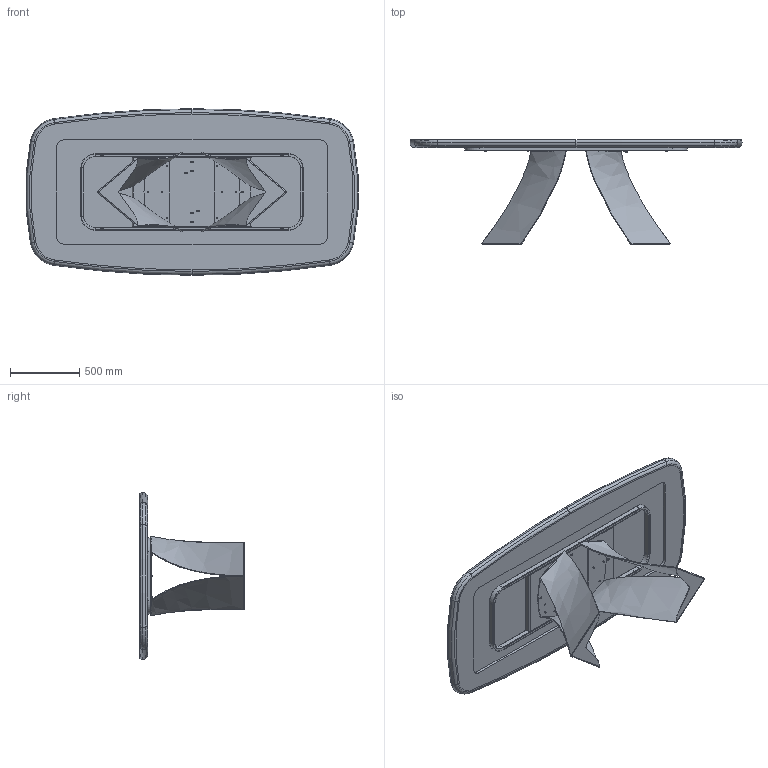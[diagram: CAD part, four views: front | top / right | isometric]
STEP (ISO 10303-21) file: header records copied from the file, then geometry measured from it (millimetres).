
FILE_DESCRIPTION (( 'STEP AP203' ), '1' );
FILE_NAME ('TW42K_Twist_240X120_King Shaped.STEP', '2024-08-02T09:51:09', ( '' ), ( '' ), 'SwSTEP 2.0', 'SolidWorks 2022', '' );
FILE_SCHEMA (( 'CONFIG_CONTROL_DESIGN' ));
Length unit declared in the file: millimetre
Products named in the file (12): rondella M8_8X16; K50-00-PIANO SOLO CERAMICA 236,7x116,7cm sag; TEALIO TEMP PER MANUALE; TTAV01_02-01-VASSOIO IRRIGIDIMENTO TELAIO UNIVERSALE; ASSIEME PIANO+CERAMICA 240X120; M8xXXmm_M8x55mm; W50-01-PIANO KING BORDO 240x120 SAGOMATO LACCATO; TW42K_Twist_240X120_King Shaped; M8xXXmm_M8x10mm; M8xXXmm_M8x20mm; TWS000000BAS-00-TWIST BASE GREZZA; TUBOLARE TELAIO TEMP TWIST_Default<A macchina>
Assembly tree (41 placements, depth 3):
  TW42K_Twist_240X120_King Shaped
    TEALIO TEMP PER MANUALE
      TUBOLARE TELAIO TEMP TWIST_Default<A macchina>
      TTAV01_02-01-VASSOIO IRRIGIDIMENTO TELAIO UNIVERSALE
    TWS000000BAS-00-TWIST BASE GREZZA  x2
    M8xXXmm_M8x10mm
    M8xXXmm_M8x55mm  x4
    rondella M8_8X16  x16
    M8xXXmm_M8x20mm  x12
    ASSIEME PIANO+CERAMICA 240X120
      K50-00-PIANO SOLO CERAMICA 236,7x116,7cm sag
      W50-01-PIANO KING BORDO 240x120 SAGOMATO LACCATO
Bounding box: 2391.93 x 751.37 x 1200 mm (x, y, z)
Volume: 126654509.3 mm3; surface area: 15232800.9 mm2
Topology: 54 solids, 54 shells, 1354 faces, 3150 edges, 1884 vertices
Faces by surface type: plane 494, cylinder 321, torus 278, cone 195, bspline 66
Entity records: 27012 total; most frequent: CARTESIAN_POINT 9726, DIRECTION 3321, ORIENTED_EDGE 3082, EDGE_CURVE 1541, AXIS2_PLACEMENT_3D 1293, VERTEX_POINT 973, LINE 735, VECTOR 735
